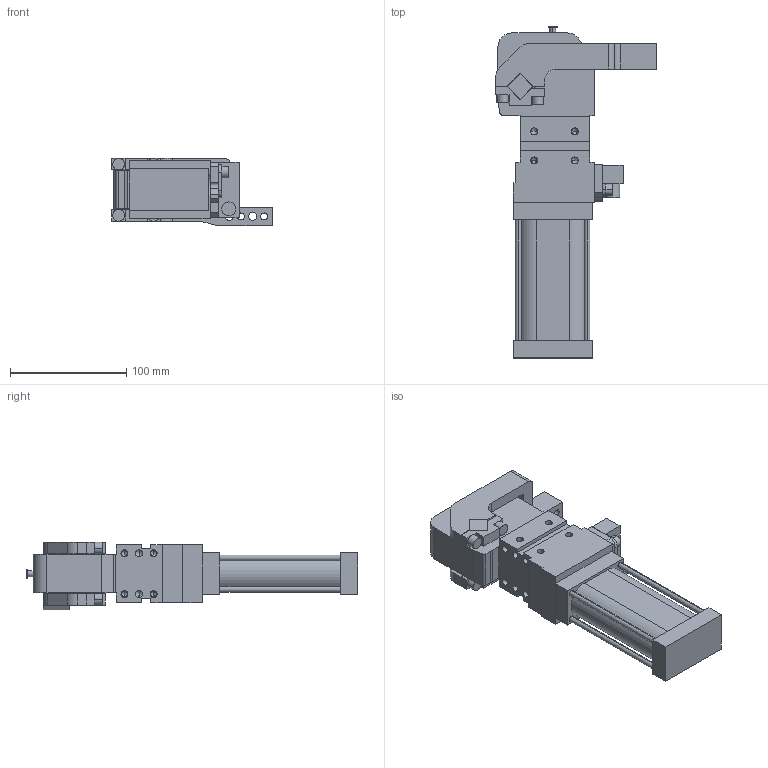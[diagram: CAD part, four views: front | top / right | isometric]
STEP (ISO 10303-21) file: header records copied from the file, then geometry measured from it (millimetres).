
FILE_DESCRIPTION (( 'STEP AP214' ), '1' );
FILE_NAME ('cpl40v1dsi1g_31.STEP', '2021-05-19T10:25:50', ( '' ), ( '' ), 'SwSTEP 2.0', 'SolidWorks 2021', '' );
FILE_SCHEMA (( 'AUTOMOTIVE_DESIGN' ));
Length unit declared in the file: millimetre
Products named in the file (5): piastra_blocchetto_cpl40; cpl40v1dsi1g_31; blocchetto_VEP_0_cpl40; leva_v1s_cpl40; meccanica_cpl40
Assembly tree (4 placements, depth 2):
  cpl40v1dsi1g_31
    meccanica_cpl40
    blocchetto_VEP_0_cpl40
    piastra_blocchetto_cpl40
    leva_v1s_cpl40
Bounding box: 138 x 285 x 58 mm (x, y, z)
Volume: 773836 mm3; surface area: 118009.1 mm2
Topology: 5 solids, 5 shells, 413 faces, 1055 edges, 659 vertices
Faces by surface type: plane 218, cylinder 147, cone 48
Entity records: 13750 total; most frequent: DIRECTION 2173, CARTESIAN_POINT 2088, ORIENTED_EDGE 2018, EDGE_CURVE 1009, AXIS2_PLACEMENT_3D 744, VECTOR 685, LINE 685, VERTEX_POINT 659
